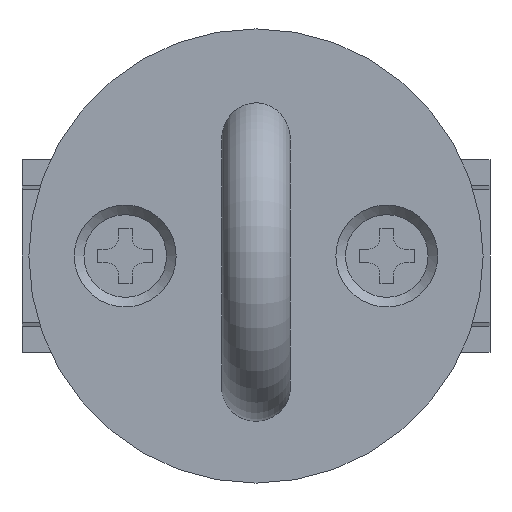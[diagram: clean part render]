
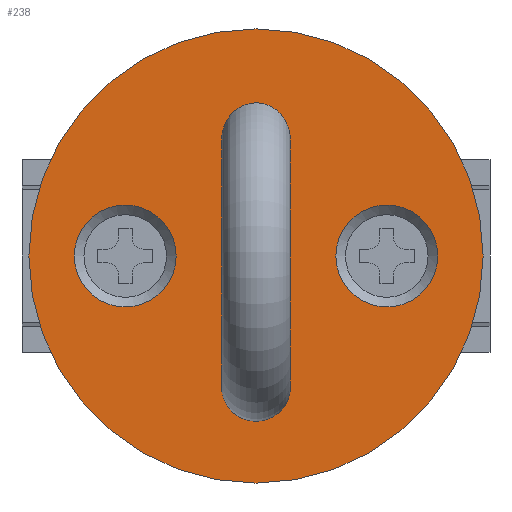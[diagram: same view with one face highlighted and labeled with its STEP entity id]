
A CAD part, front view. The second image highlights one B-rep face of the part: STEP entity #238.
In plain terms, the highlighted planar face has unit normal (0, -1, 0) as drawn and (0, 0, 1) by its records, which use the part's own axes.
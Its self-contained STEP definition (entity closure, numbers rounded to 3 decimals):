
#238=ADVANCED_FACE('',(#428,#429,#430,#431),#432,.T.);
#428=FACE_BOUND('',#595,.T.);
#429=FACE_BOUND('',#596,.T.);
#430=FACE_BOUND('',#597,.T.);
#431=FACE_OUTER_BOUND('',#598,.T.);
#432=PLANE('',#599);
#595=EDGE_LOOP('',(#938));
#596=EDGE_LOOP('',(#939));
#597=EDGE_LOOP('',(#940));
#598=EDGE_LOOP('',(#941));
#599=AXIS2_PLACEMENT_3D('',#942,#943,#944);
#938=ORIENTED_EDGE('',*,*,#1093,.F.);
#939=ORIENTED_EDGE('',*,*,#1087,.F.);
#940=ORIENTED_EDGE('',*,*,#1128,.F.);
#941=ORIENTED_EDGE('',*,*,#1122,.T.);
#942=CARTESIAN_POINT('',(16.5,16.5,6.5));
#943=DIRECTION('',(0.0,0.0,1.0));
#944=DIRECTION('',(1.0,0.0,0.0));
#1087=EDGE_CURVE('',#1285,#1285,#1286,.T.);
#1093=EDGE_CURVE('',#1294,#1294,#1295,.T.);
#1122=EDGE_CURVE('',#1328,#1328,#1329,.T.);
#1128=EDGE_CURVE('',#1337,#1337,#1338,.T.);
#1285=VERTEX_POINT('',#1603);
#1286=CIRCLE('',#1604,3.7);
#1294=VERTEX_POINT('',#1615);
#1295=CIRCLE('',#1616,3.7);
#1328=VERTEX_POINT('',#1662);
#1329=CIRCLE('',#1663,16.5);
#1337=VERTEX_POINT('',#1671);
#1338=CIRCLE('',#1672,2.5);
#1603=CARTESIAN_POINT('',(16.5,29.7,6.5));
#1604=AXIS2_PLACEMENT_3D('',#1776,#1777,#1778);
#1615=CARTESIAN_POINT('',(16.5,10.7,6.5));
#1616=AXIS2_PLACEMENT_3D('',#1782,#1783,#1784);
#1662=CARTESIAN_POINT('',(33.0,16.5,6.5));
#1663=AXIS2_PLACEMENT_3D('',#1807,#1808,#1809);
#1671=CARTESIAN_POINT('',(9.5,16.5,6.5));
#1672=AXIS2_PLACEMENT_3D('',#1816,#1817,#1818);
#1776=CARTESIAN_POINT('',(16.5,26.0,6.5));
#1777=DIRECTION('',(0.0,0.,1.0));
#1778=DIRECTION('',(0.0,1.0,0.));
#1782=CARTESIAN_POINT('',(16.5,7.0,6.5));
#1783=DIRECTION('',(0.0,0.,1.0));
#1784=DIRECTION('',(0.0,1.0,0.));
#1807=CARTESIAN_POINT('',(16.5,16.5,6.5));
#1808=DIRECTION('',(0.0,0.0,1.0));
#1809=DIRECTION('',(1.0,0.0,0.0));
#1816=CARTESIAN_POINT('',(7.0,16.5,6.5));
#1817=DIRECTION('',(0.0,0.0,1.0));
#1818=DIRECTION('',(1.0,0.0,0.0));
